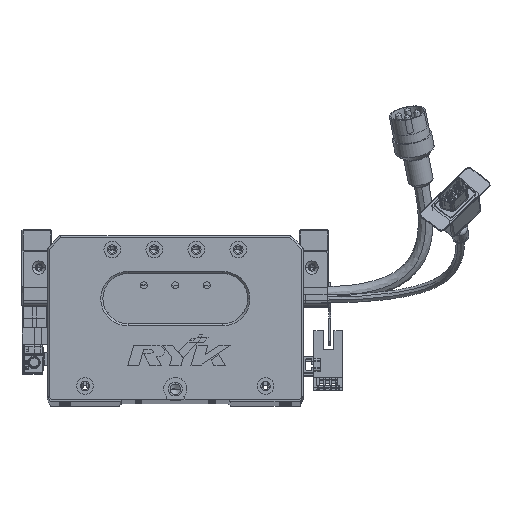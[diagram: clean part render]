
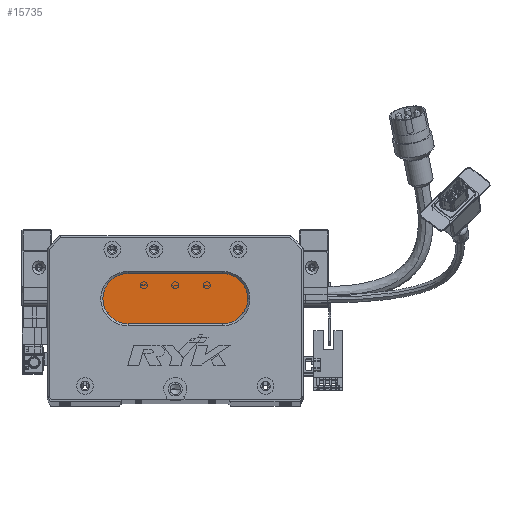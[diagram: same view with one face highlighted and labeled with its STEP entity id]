
A CAD part, top view. The second image highlights one B-rep face of the part: STEP entity #15735.
In plain terms, the highlighted planar face has unit normal (0, 0, 1) as drawn and (0, 0, -1) by its records, which use the part's own axes.
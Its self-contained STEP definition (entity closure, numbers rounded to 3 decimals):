
#259 = EDGE_LOOP ( 'NONE', ( #11130, #7722, #42097, #63591, #35397 ) ) ;
#456 = CARTESIAN_POINT ( 'NONE',  ( 83.5, 60., 13. ) ) ;
#597 = VECTOR ( 'NONE', #33635, 1000. ) ;
#1293 = VERTEX_POINT ( 'NONE', #85566 ) ;
#1795 = VERTEX_POINT ( 'NONE', #23606 ) ;
#2294 = DIRECTION ( 'NONE',  ( -1., 0., 0. ) ) ;
#4208 = DIRECTION ( 'NONE',  ( -1., 0., 0. ) ) ;
#6392 = CIRCLE ( 'NONE', #23407, 12. ) ;
#7012 = DIRECTION ( 'NONE',  ( 0., 0., -1. ) ) ;
#7722 = ORIENTED_EDGE ( 'NONE', *, *, #45310, .T. ) ;
#8648 = EDGE_CURVE ( 'NONE', #62346, #78443, #19177, .T. ) ;
#9737 = FACE_OUTER_BOUND ( 'NONE', #259, .T. ) ;
#9918 = AXIS2_PLACEMENT_3D ( 'NONE', #18892, #44422, #18019 ) ;
#11130 = ORIENTED_EDGE ( 'NONE', *, *, #8648, .T. ) ;
#11840 = DIRECTION ( 'NONE',  ( -1., 0., 0. ) ) ;
#15735 = ADVANCED_FACE ( 'NONE', ( #9737 ), #67129, .T. ) ;
#18019 = DIRECTION ( 'NONE',  ( -1., 0., 0. ) ) ;
#18453 = LINE ( 'NONE', #456, #597 ) ;
#18892 = CARTESIAN_POINT ( 'NONE',  ( 83.5, 48., 13. ) ) ;
#19177 = CIRCLE ( 'NONE', #9918, 12. ) ;
#23407 = AXIS2_PLACEMENT_3D ( 'NONE', #65485, #72793, #11840 ) ;
#23606 = CARTESIAN_POINT ( 'NONE',  ( 38.5, 60., 13. ) ) ;
#24968 = AXIS2_PLACEMENT_3D ( 'NONE', #47176, #7012, #2294 ) ;
#26034 = EDGE_CURVE ( 'NONE', #1293, #1795, #78638, .T. ) ;
#27831 = DIRECTION ( 'NONE',  ( -1., 0., 0. ) ) ;
#33251 = DIRECTION ( 'NONE',  ( 0., 0., -1. ) ) ;
#33635 = DIRECTION ( 'NONE',  ( 1., 0., 0. ) ) ;
#33647 = CARTESIAN_POINT ( 'NONE',  ( 83.5, 60., 13. ) ) ;
#35397 = ORIENTED_EDGE ( 'NONE', *, *, #70613, .T. ) ;
#38345 = EDGE_CURVE ( 'NONE', #69029, #1293, #6392, .T. ) ;
#41188 = LINE ( 'NONE', #81228, #46479 ) ;
#42097 = ORIENTED_EDGE ( 'NONE', *, *, #38345, .T. ) ;
#44422 = DIRECTION ( 'NONE',  ( 0., 0., -1. ) ) ;
#45310 = EDGE_CURVE ( 'NONE', #78443, #69029, #41188, .T. ) ;
#46479 = VECTOR ( 'NONE', #27831, 1000. ) ;
#47176 = CARTESIAN_POINT ( 'NONE',  ( 83.5, 48., 13. ) ) ;
#47376 = CARTESIAN_POINT ( 'NONE',  ( 38.5, 36., 13. ) ) ;
#51379 = CARTESIAN_POINT ( 'NONE',  ( 38.5, 48., 13. ) ) ;
#62346 = VERTEX_POINT ( 'NONE', #33647 ) ;
#63591 = ORIENTED_EDGE ( 'NONE', *, *, #26034, .T. ) ;
#65485 = CARTESIAN_POINT ( 'NONE',  ( 38.5, 48., 13. ) ) ;
#66603 = AXIS2_PLACEMENT_3D ( 'NONE', #51379, #33251, #4208 ) ;
#67129 = PLANE ( 'NONE',  #24968 ) ;
#69029 = VERTEX_POINT ( 'NONE', #47376 ) ;
#70613 = EDGE_CURVE ( 'NONE', #1795, #62346, #18453, .T. ) ;
#72793 = DIRECTION ( 'NONE',  ( 0., 0., -1. ) ) ;
#78443 = VERTEX_POINT ( 'NONE', #85456 ) ;
#78638 = CIRCLE ( 'NONE', #66603, 12. ) ;
#81228 = CARTESIAN_POINT ( 'NONE',  ( 83.5, 36., 13. ) ) ;
#85456 = CARTESIAN_POINT ( 'NONE',  ( 83.5, 36., 13. ) ) ;
#85566 = CARTESIAN_POINT ( 'NONE',  ( 26.5, 48., 13. ) ) ;
